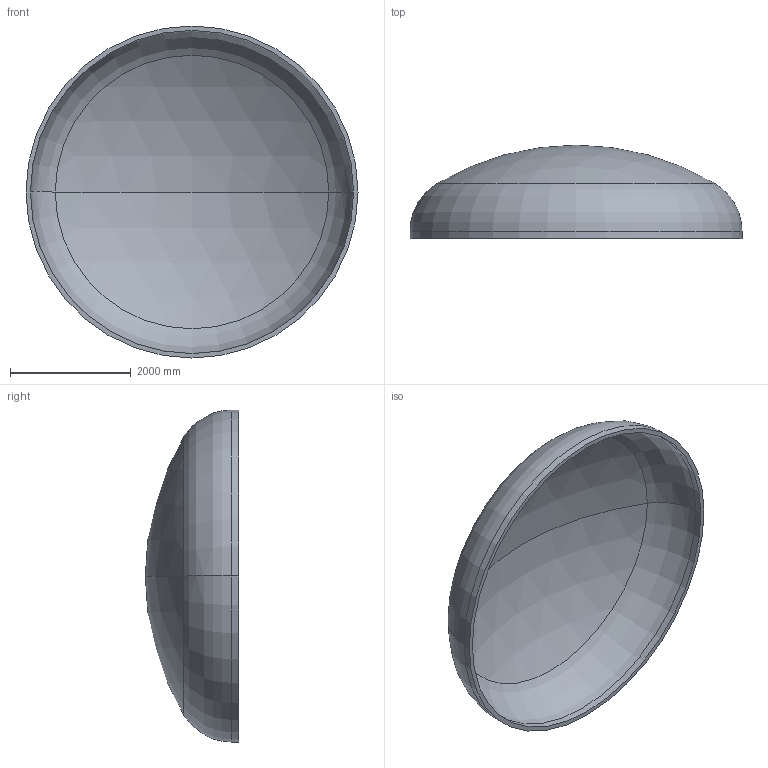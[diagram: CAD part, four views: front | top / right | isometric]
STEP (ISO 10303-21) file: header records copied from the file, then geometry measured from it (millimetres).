
FILE_DESCRIPTION (( 'STEP AP203' ), '1' );
FILE_NAME ('DIN 28013 Korbbogenform_-_Boden DIN 28013 - 5500 x 120 - I - s=74.step', '2016-07-04T10:34:46', ( '' ), ( '' ), 'SwSTEP 2.0', 'SolidWorks 2013', '' );
FILE_SCHEMA (( 'CONFIG_CONTROL_DESIGN' ));
Length unit declared in the file: millimetre
Products named in the file (1): DIN 28013 Korbbogenform_-_Boden DIN 28013 - 5500 x 120 - I - s=74
Bounding box: 5500 x 1546.79 x 5500 mm (x, y, z)
Volume: 2542308370.6 mm3; surface area: 69983905.2 mm2
Topology: 1 solids, 1 shells, 13 faces, 24 edges, 14 vertices
Faces by surface type: torus 4, cylinder 4, sphere 4, plane 1
Entity records: 407 total; most frequent: DIRECTION 72, CARTESIAN_POINT 52, ORIENTED_EDGE 48, AXIS2_PLACEMENT_3D 34, EDGE_CURVE 24, CIRCLE 20, VERTEX_POINT 14, EDGE_LOOP 14
